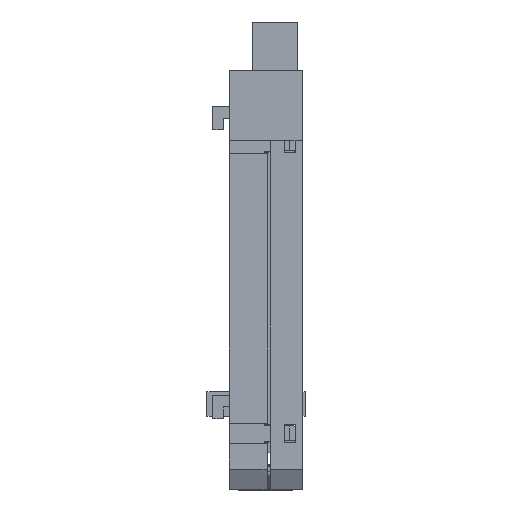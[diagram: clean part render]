
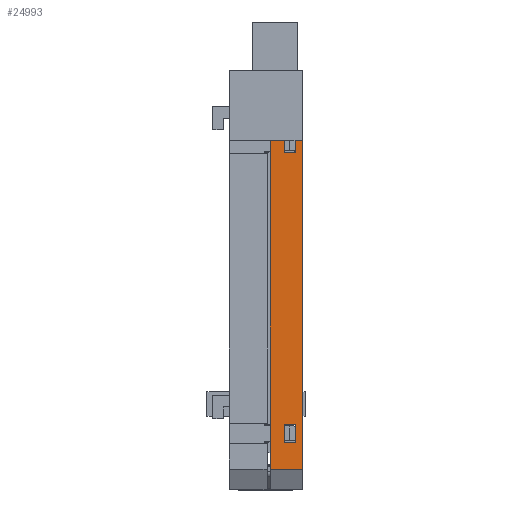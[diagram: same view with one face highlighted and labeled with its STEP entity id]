
A CAD part, front view. The second image highlights one B-rep face of the part: STEP entity #24993.
In plain terms, the highlighted planar face has unit normal (0, -1, 0).
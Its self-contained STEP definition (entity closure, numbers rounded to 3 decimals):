
#261 = LINE ( 'NONE', #14563, #19412 ) ;
#279 = VECTOR ( 'NONE', #20588, 1000. ) ;
#925 = VERTEX_POINT ( 'NONE', #8461 ) ;
#1047 = DIRECTION ( 'NONE',  ( -1., 0., 0. ) ) ;
#1052 = EDGE_CURVE ( 'NONE', #17442, #15674, #11266, .T. ) ;
#1265 = VECTOR ( 'NONE', #15505, 1000. ) ;
#1280 = DIRECTION ( 'NONE',  ( 0., 0., 1. ) ) ;
#1746 = FACE_OUTER_BOUND ( 'NONE', #14728, .T. ) ;
#1849 = EDGE_CURVE ( 'NONE', #3393, #3669, #18496, .T. ) ;
#2426 = DIRECTION ( 'NONE',  ( 0., 0., -1. ) ) ;
#3050 = EDGE_CURVE ( 'NONE', #9709, #12306, #261, .T. ) ;
#3320 = CARTESIAN_POINT ( 'NONE',  ( 2.4, 0., -60.645 ) ) ;
#3393 = VERTEX_POINT ( 'NONE', #11819 ) ;
#3669 = VERTEX_POINT ( 'NONE', #10067 ) ;
#4589 = ORIENTED_EDGE ( 'NONE', *, *, #15477, .T. ) ;
#5420 = ORIENTED_EDGE ( 'NONE', *, *, #21450, .T. ) ;
#5773 = CARTESIAN_POINT ( 'NONE',  ( 5.5, 0., 0. ) ) ;
#6051 = EDGE_CURVE ( 'NONE', #17442, #18473, #16722, .T. ) ;
#6637 = CARTESIAN_POINT ( 'NONE',  ( 2.4, 0., -60.645 ) ) ;
#6857 = CARTESIAN_POINT ( 'NONE',  ( 0., 0., 0. ) ) ;
#6882 = VECTOR ( 'NONE', #18927, 1000. ) ;
#6901 = VECTOR ( 'NONE', #1280, 1000. ) ;
#7626 = ORIENTED_EDGE ( 'NONE', *, *, #10190, .T. ) ;
#7643 = CARTESIAN_POINT ( 'NONE',  ( 0., 0., -65.25 ) ) ;
#7803 = CARTESIAN_POINT ( 'NONE',  ( 2.4, 0., -10.945 ) ) ;
#8461 = CARTESIAN_POINT ( 'NONE',  ( 2.4, 0., -57.545 ) ) ;
#8530 = ORIENTED_EDGE ( 'NONE', *, *, #10320, .F. ) ;
#9709 = VERTEX_POINT ( 'NONE', #11264 ) ;
#9857 = FACE_BOUND ( 'NONE', #24232, .T. ) ;
#10064 = PLANE ( 'NONE',  #10822 ) ;
#10067 = CARTESIAN_POINT ( 'NONE',  ( 2.4, 0., -60.645 ) ) ;
#10190 = EDGE_CURVE ( 'NONE', #11934, #21401, #25078, .T. ) ;
#10213 = LINE ( 'NONE', #23216, #20889 ) ;
#10320 = EDGE_CURVE ( 'NONE', #18473, #15256, #15325, .T. ) ;
#10355 = CARTESIAN_POINT ( 'NONE',  ( 4.4, 0., -60.645 ) ) ;
#10822 = AXIS2_PLACEMENT_3D ( 'NONE', #24376, #14522, #12449 ) ;
#11231 = CARTESIAN_POINT ( 'NONE',  ( 2.4, 0., -10.945 ) ) ;
#11264 = CARTESIAN_POINT ( 'NONE',  ( 4.4, 0., -7.845 ) ) ;
#11266 = LINE ( 'NONE', #13200, #6882 ) ;
#11322 = LINE ( 'NONE', #10355, #18884 ) ;
#11371 = EDGE_CURVE ( 'NONE', #3669, #925, #12182, .T. ) ;
#11565 = VECTOR ( 'NONE', #17746, 1000. ) ;
#11819 = CARTESIAN_POINT ( 'NONE',  ( 4.4, 0., -60.645 ) ) ;
#11934 = VERTEX_POINT ( 'NONE', #7803 ) ;
#12182 = LINE ( 'NONE', #3320, #22219 ) ;
#12190 = ORIENTED_EDGE ( 'NONE', *, *, #17811, .T. ) ;
#12306 = VERTEX_POINT ( 'NONE', #24047 ) ;
#12416 = CARTESIAN_POINT ( 'NONE',  ( 4.4, 0., -57.545 ) ) ;
#12449 = DIRECTION ( 'NONE',  ( 0., 0., 1. ) ) ;
#12640 = CARTESIAN_POINT ( 'NONE',  ( 0., 0., 0. ) ) ;
#13200 = CARTESIAN_POINT ( 'NONE',  ( 5.5, 0., 0. ) ) ;
#13206 = ORIENTED_EDGE ( 'NONE', *, *, #13302, .T. ) ;
#13302 = EDGE_CURVE ( 'NONE', #12306, #11934, #10213, .T. ) ;
#13503 = CARTESIAN_POINT ( 'NONE',  ( 5.5, 0., -65.25 ) ) ;
#13560 = LINE ( 'NONE', #6857, #25497 ) ;
#13566 = CARTESIAN_POINT ( 'NONE',  ( 2.4, 0., -57.545 ) ) ;
#13880 = CARTESIAN_POINT ( 'NONE',  ( 5.5, 0., -65.25 ) ) ;
#14069 = LINE ( 'NONE', #13566, #11565 ) ;
#14522 = DIRECTION ( 'NONE',  ( 0., 1., 0. ) ) ;
#14563 = CARTESIAN_POINT ( 'NONE',  ( 4.4, 0., -10.945 ) ) ;
#14728 = EDGE_LOOP ( 'NONE', ( #5420, #8530, #23891, #18976 ) ) ;
#15256 = VERTEX_POINT ( 'NONE', #7643 ) ;
#15325 = LINE ( 'NONE', #13503, #1265 ) ;
#15477 = EDGE_CURVE ( 'NONE', #23787, #3393, #11322, .T. ) ;
#15505 = DIRECTION ( 'NONE',  ( -1., 0., 0. ) ) ;
#15674 = VERTEX_POINT ( 'NONE', #12640 ) ;
#15908 = EDGE_CURVE ( 'NONE', #21401, #9709, #21355, .T. ) ;
#16722 = LINE ( 'NONE', #5773, #22049 ) ;
#17199 = ORIENTED_EDGE ( 'NONE', *, *, #11371, .T. ) ;
#17442 = VERTEX_POINT ( 'NONE', #25975 ) ;
#17746 = DIRECTION ( 'NONE',  ( 1., 0., 0. ) ) ;
#17761 = FACE_BOUND ( 'NONE', #19615, .T. ) ;
#17811 = EDGE_CURVE ( 'NONE', #925, #23787, #14069, .T. ) ;
#18182 = ORIENTED_EDGE ( 'NONE', *, *, #3050, .T. ) ;
#18378 = DIRECTION ( 'NONE',  ( 0., 0., -1. ) ) ;
#18473 = VERTEX_POINT ( 'NONE', #13880 ) ;
#18496 = LINE ( 'NONE', #6637, #279 ) ;
#18809 = CARTESIAN_POINT ( 'NONE',  ( 2.4, 0., -7.845 ) ) ;
#18884 = VECTOR ( 'NONE', #18378, 1000. ) ;
#18927 = DIRECTION ( 'NONE',  ( -1., 0., 0. ) ) ;
#18976 = ORIENTED_EDGE ( 'NONE', *, *, #1052, .T. ) ;
#19366 = DIRECTION ( 'NONE',  ( 0., 0., 1. ) ) ;
#19412 = VECTOR ( 'NONE', #2426, 1000. ) ;
#19615 = EDGE_LOOP ( 'NONE', ( #7626, #24093, #18182, #13206 ) ) ;
#19903 = DIRECTION ( 'NONE',  ( 1., 0., 0. ) ) ;
#20588 = DIRECTION ( 'NONE',  ( -1., 0., 0. ) ) ;
#20889 = VECTOR ( 'NONE', #1047, 1000. ) ;
#21355 = LINE ( 'NONE', #25667, #25735 ) ;
#21401 = VERTEX_POINT ( 'NONE', #18809 ) ;
#21450 = EDGE_CURVE ( 'NONE', #15674, #15256, #13560, .T. ) ;
#21809 = DIRECTION ( 'NONE',  ( 0., 0., -1. ) ) ;
#22049 = VECTOR ( 'NONE', #21809, 1000. ) ;
#22219 = VECTOR ( 'NONE', #19366, 1000. ) ;
#22898 = DIRECTION ( 'NONE',  ( 0., 0., -1. ) ) ;
#23216 = CARTESIAN_POINT ( 'NONE',  ( 2.4, 0., -10.945 ) ) ;
#23787 = VERTEX_POINT ( 'NONE', #12416 ) ;
#23891 = ORIENTED_EDGE ( 'NONE', *, *, #6051, .F. ) ;
#24047 = CARTESIAN_POINT ( 'NONE',  ( 4.4, 0., -10.945 ) ) ;
#24093 = ORIENTED_EDGE ( 'NONE', *, *, #15908, .T. ) ;
#24232 = EDGE_LOOP ( 'NONE', ( #25901, #17199, #12190, #4589 ) ) ;
#24376 = CARTESIAN_POINT ( 'NONE',  ( 5.5, 0., 0. ) ) ;
#24993 = ADVANCED_FACE ( 'NONE', ( #17761, #9857, #1746 ), #10064, .F. ) ;
#25078 = LINE ( 'NONE', #11231, #6901 ) ;
#25497 = VECTOR ( 'NONE', #22898, 1000. ) ;
#25667 = CARTESIAN_POINT ( 'NONE',  ( 2.4, 0., -7.845 ) ) ;
#25735 = VECTOR ( 'NONE', #19903, 1000. ) ;
#25901 = ORIENTED_EDGE ( 'NONE', *, *, #1849, .T. ) ;
#25975 = CARTESIAN_POINT ( 'NONE',  ( 5.5, 0., 0. ) ) ;
